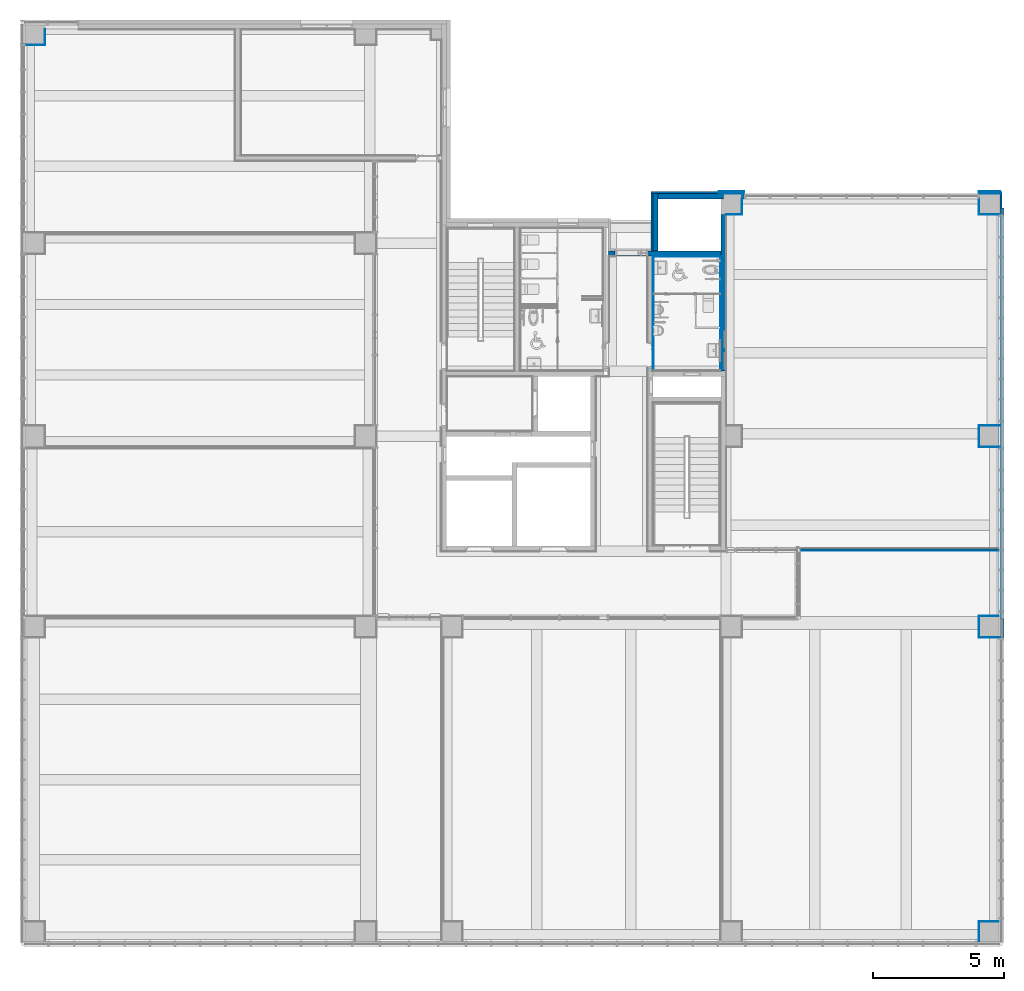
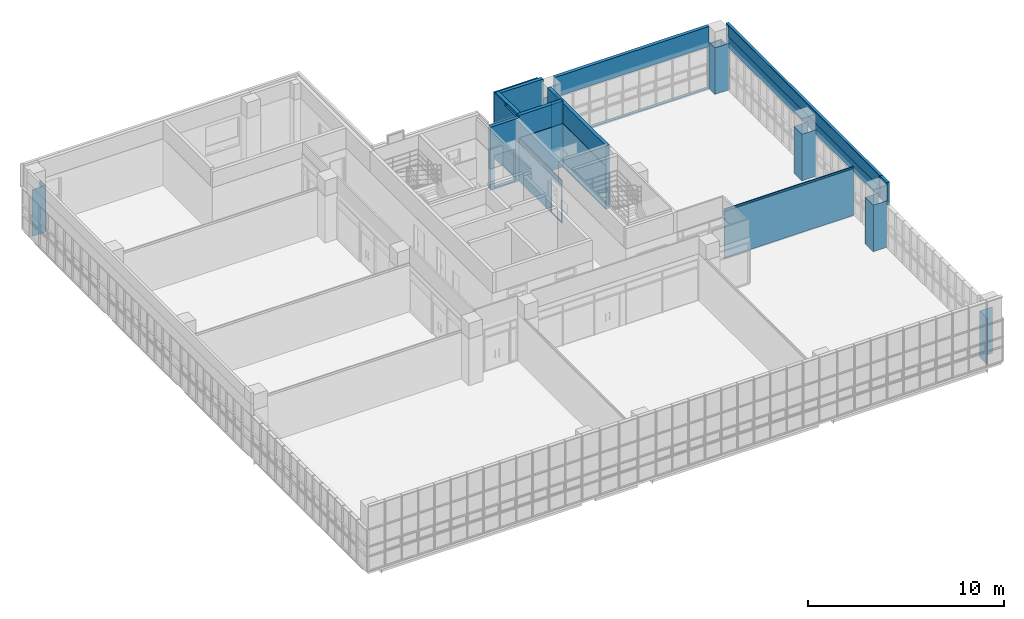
# One storey, part 58 of 76: 32 walls, 4 openings.
"""IFC2X3 building model written with IfcOpenShell, lengths in millimetres."""

from ifc_helpers import new_model, entity, si_unit, converted_unit, derived_unit, direction, frame, frame_2d, origin, origin_2d_with_axis, place, context, subcontext, project, spatial, polyline, rectangle, extrude, clip, bounded_halfspace, material, layer, layer_set, layer_usage, type_object, element, save


model = new_model("IFC2X3")

# Units and contexts
model_context = context("Model", 3, precision=0.01, world=origin(), true_north=direction((6.123031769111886e-17, 1.0)))
body_context = subcontext(model_context, "Body", "Model", "MODEL_VIEW")
ifc_project = project(units=[si_unit("LENGTHUNIT", "METRE", prefix="MILLI"), si_unit("AREAUNIT", "SQUARE_METRE"), si_unit("VOLUMEUNIT", "CUBIC_METRE"), converted_unit("PLANEANGLEUNIT", "DEGREE", entity("IfcRatioMeasure", 0.017453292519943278), si_unit("PLANEANGLEUNIT", "RADIAN"), dimensions=[0, 0, 0, 0, 0, 0, 0]), si_unit("MASSUNIT", "GRAM", prefix="KILO"), derived_unit("MASSDENSITYUNIT", [(si_unit("MASSUNIT", "GRAM", prefix="KILO"), 1), (si_unit("LENGTHUNIT", "METRE"), -3)]), derived_unit("MOMENTOFINERTIAUNIT", [(si_unit("LENGTHUNIT", "METRE"), 4)]), si_unit("TIMEUNIT", "SECOND"), si_unit("FREQUENCYUNIT", "HERTZ"), si_unit("THERMODYNAMICTEMPERATUREUNIT", "DEGREE_CELSIUS"), derived_unit("THERMALTRANSMITTANCEUNIT", [(si_unit("MASSUNIT", "GRAM", prefix="KILO"), 1), (si_unit("THERMODYNAMICTEMPERATUREUNIT", "KELVIN"), -1), (si_unit("TIMEUNIT", "SECOND"), -3)]), derived_unit("VOLUMETRICFLOWRATEUNIT", [(si_unit("LENGTHUNIT", "METRE"), 3), (si_unit("TIMEUNIT", "SECOND"), -1)]), derived_unit("MASSFLOWRATEUNIT", [(si_unit("MASSUNIT", "GRAM", prefix="KILO"), 1), (si_unit("TIMEUNIT", "SECOND"), -1)]), derived_unit("ROTATIONALFREQUENCYUNIT", [(si_unit("TIMEUNIT", "SECOND"), -1)]), si_unit("ELECTRICCURRENTUNIT", "AMPERE"), si_unit("ELECTRICVOLTAGEUNIT", "VOLT"), si_unit("POWERUNIT", "WATT"), si_unit("FORCEUNIT", "NEWTON", prefix="KILO"), si_unit("ILLUMINANCEUNIT", "LUX"), si_unit("LUMINOUSFLUXUNIT", "LUMEN"), si_unit("LUMINOUSINTENSITYUNIT", "CANDELA"), derived_unit("USERDEFINED", [(si_unit("MASSUNIT", "GRAM", prefix="KILO"), -1), (si_unit("LENGTHUNIT", "METRE"), -2), (si_unit("TIMEUNIT", "SECOND"), 3), (si_unit("LUMINOUSFLUXUNIT", "LUMEN"), 1)]), derived_unit("SOUNDPOWERUNIT", [(si_unit("MASSUNIT", "GRAM", prefix="KILO"), 1), (si_unit("LENGTHUNIT", "METRE"), 2), (si_unit("TIMEUNIT", "SECOND"), -3)]), derived_unit("SOUNDPRESSUREUNIT", [(si_unit("MASSUNIT", "GRAM", prefix="KILO"), 1), (si_unit("LENGTHUNIT", "METRE"), -1), (si_unit("TIMEUNIT", "SECOND"), -2)]), derived_unit("LINEARVELOCITYUNIT", [(si_unit("LENGTHUNIT", "METRE"), 1), (si_unit("TIMEUNIT", "SECOND"), -1)]), si_unit("PRESSUREUNIT", "PASCAL"), derived_unit("USERDEFINED", [(si_unit("LENGTHUNIT", "METRE"), -2), (si_unit("MASSUNIT", "GRAM", prefix="KILO"), 1), (si_unit("TIMEUNIT", "SECOND"), -2)]), derived_unit("LINEARFORCEUNIT", [(si_unit("MASSUNIT", "GRAM", prefix="KILO"), 1), (si_unit("LENGTHUNIT", "METRE"), 1), (si_unit("TIMEUNIT", "SECOND"), -2), (si_unit("LENGTHUNIT", "METRE"), -1)]), derived_unit("PLANARFORCEUNIT", [(si_unit("MASSUNIT", "GRAM", prefix="KILO"), 1), (si_unit("LENGTHUNIT", "METRE"), 1), (si_unit("TIMEUNIT", "SECOND"), -2), (si_unit("LENGTHUNIT", "METRE"), -2)])], contexts=[model_context])

# Site, building, storey
site_placement = place(None, frame((-14167.972527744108, -657.2125860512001, 0.0)))
site = spatial("IfcSite", under=ifc_project, at=site_placement, Name="Default", CompositionType="ELEMENT")
building_placement = place(site_placement, origin())
building = spatial("IfcBuilding", under=site, at=building_placement, Name="Sample Building", CompositionType="ELEMENT")
storey_placement = place(building_placement, frame((0.0, 0.0, 9300.0)))
storey = spatial("IfcBuildingStorey", under=building, at=storey_placement, Name="지상 3층", CompositionType="ELEMENT", Elevation=9300.000000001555)

# Wall, opening
ifc_material_1 = material(Name="KBIMS-콘크리트")
ifc_layer_1 = layer(ifc_material_1, 200.0)
ifc_layer_set_1 = layer_set([ifc_layer_1], Name="기본 벽:WA111-철근콘크리트구조 벽 200mm_CW1")
ifc_layer_usage_1 = layer_usage(ifc_layer_set_1, "AXIS2", "NEGATIVE", 100.0)
wall_type_1 = type_object("IfcWallType", Name="기본 벽:WA111-철근콘크리트구조 벽 200mm_CW1", PredefinedType="STANDARD", material=ifc_layer_set_1)
wall_1_placement = place(storey_placement, frame((36467.963798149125, 26957.21229514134, -2.297844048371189e-09)))
wall_1 = element("IfcWallStandardCase", 1, at=wall_1_placement, inside=storey, type_object=wall_type_1, material=ifc_layer_usage_1, Name="기본 벽:WA111-철근콘크리트구조 벽 200mm_CW1", ObjectType="기본 벽:WA111-철근콘크리트구조 벽 200mm_CW1", context=body_context, shape_type="Clipping", body=[
    clip(clip(extrude(rectangle(XDim=4300.000000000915, YDim=199.99999999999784, at=frame_2d((2150.0000000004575, 0.0), x_axis=(-1.0, 0.0))), origin(), (0.0, 0.0, 1.0), 4100.000000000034), bounded_halfspace(frame((1699.9912638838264, -100.0, 3950.0), z_axis=(0.0, 0.0, -1.0), x_axis=(1.0, 0.0, 0.0)), True, frame((1699.9912638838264, -100.0, 3950.0), z_axis=(0.0, 0.0, -1.0), x_axis=(1.0, 0.0, 0.0)), polyline([(0.0, 0.0), (-60957.33723164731, 0.0), (-426717.30176581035, 0.0), (-518157.3372317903, 0.0), (-518157.3372317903, -60960.0), (-426717.30176581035, -60960.0), (0.0, -60960.0), (0.0, 0.0)]))), bounded_halfspace(frame((1699.9912638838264, 100.0, 3950.0), z_axis=(1.0, 0.0, 0.0), x_axis=(0.0, 0.0, 1.0)), True, frame((1699.9912638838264, 100.0, 3950.0), z_axis=(1.0, 0.0, 0.0), x_axis=(0.0, 0.0, 1.0)), polyline([(0.0, 0.0), (45720.0, 0.0), (45720.0, 60960.0), (0.0, 60960.0), (0.0, 0.0)]))),
])
opening_1_placement = place(wall_1_placement, origin())
element("IfcOpeningElement", 2, at=opening_1_placement, cuts=wall_1, Name="기본 벽:WA111-철근콘크리트구조 벽 200mm_CW1", ObjectType="Opening", context=body_context, shape_type="SweptSolid", body=[
    extrude(rectangle(XDim=2020.000000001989, YDim=1250.0000000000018, at=frame_2d((-5.115907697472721e-13, 0.0), x_axis=(1.0, 0.0))), frame((875.0, -252.39999999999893, 1090.0), z_axis=(0.0, 1.0, 0.0), x_axis=(0.0, 0.0, 1.0)), (0.0, 0.0, 1.0), 504.79999999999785),
])

# Walls
ifc_layer_usage_2 = layer_usage(ifc_layer_set_1, "AXIS2", "NEGATIVE", 100.0)
wall_2_placement = place(storey_placement, frame((40867.963798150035, 28457.212307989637, -2.297844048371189e-09), z_axis=(0.0, 0.0, 1.0), x_axis=(0.0, -1.0, 0.0)))
element("IfcWallStandardCase", 3, at=wall_2_placement, inside=storey, type_object=wall_type_1, material=ifc_layer_usage_2, Name="기본 벽:WA111-철근콘크리트구조 벽 200mm_CW1", ObjectType="기본 벽:WA111-철근콘크리트구조 벽 200mm_CW1", context=body_context, shape_type="Clipping", body=[
    clip(extrude(rectangle(XDim=6000.000009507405, YDim=199.99999999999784, at=frame_2d((3000.0000047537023, 5.5351279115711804e-12), x_axis=(-1.0, 0.0))), origin(), (0.0, 0.0, 1.0), 3950.0000000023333), bounded_halfspace(frame((0.0, -100.0, 3950.0), z_axis=(0.0, 0.0, -1.0), x_axis=(1.0, 0.0, 0.0)), True, frame((0.0, -100.0, 3950.0), z_axis=(0.0, 0.0, -1.0), x_axis=(1.0, 0.0, 0.0)), polyline([(0.0, 0.0), (0.0, -60960.0), (1828800.0, -60960.0), (1828800.0, 7.805306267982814e-09), (0.0, 0.0)]))),
])
ifc_layer_usage_3 = layer_usage(ifc_layer_set_1, "AXIS2", "NEGATIVE", 100.0)
wall_3_placement = place(storey_placement, frame((38267.97249112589, 27057.21229514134, -2.297844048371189e-09), z_axis=(0.0, 0.0, 1.0), x_axis=(0.0, 1.0, 0.0)))
element("IfcWallStandardCase", 4, at=wall_3_placement, inside=storey, type_object=wall_type_1, material=ifc_layer_usage_3, Name="기본 벽:WA111-철근콘크리트구조 벽 200mm_CW1", ObjectType="기본 벽:WA111-철근콘크리트구조 벽 200mm_CW1", context=body_context, shape_type="SweptSolid", body=[
    extrude(rectangle(XDim=2200.000012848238, YDim=199.99999999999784, at=frame_2d((1100.000006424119, 0.0), x_axis=(-1.0, 0.0))), origin(), (0.0, 0.0, 1.0), 4100.000000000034),
])
ifc_layer_usage_4 = layer_usage(ifc_layer_set_1, "AXIS2", "NEGATIVE", 100.0)
wall_4_placement = place(storey_placement, frame((38367.97249112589, 29157.21230798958, -2.297844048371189e-09)))
element("IfcWallStandardCase", 5, at=wall_4_placement, inside=storey, type_object=wall_type_1, material=ifc_layer_usage_4, Name="기본 벽:WA111-철근콘크리트구조 벽 200mm_CW1", ObjectType="기본 벽:WA111-철근콘크리트구조 벽 200mm_CW1", context=body_context, shape_type="SweptSolid", body=[
    extrude(rectangle(XDim=2499.991307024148, YDim=199.99999999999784, at=frame_2d((1249.995653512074, 0.0), x_axis=(-1.0, 0.0))), origin(), (0.0, 0.0, 1.0), 4100.000000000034),
])

# Wall, opening
ifc_layer_2 = layer(ifc_material_1, 200.0)
ifc_layer_set_2 = layer_set([ifc_layer_2], Name="기본 벽:WA111-철근콘크리트구조 벽 200mm_W1")
ifc_layer_usage_5 = layer_usage(ifc_layer_set_2, "AXIS2", "NEGATIVE", 100.0)
wall_type_2 = type_object("IfcWallType", Name="기본 벽:WA111-철근콘크리트구조 벽 200mm_W1", PredefinedType="STANDARD", material=ifc_layer_set_2)
wall_5_placement = place(storey_placement, frame((41567.972491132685, 29157.212295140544, -2.297844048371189e-09)))
wall_5 = element("IfcWallStandardCase", 6, at=wall_5_placement, inside=storey, type_object=wall_type_2, material=ifc_layer_usage_5, Name="기본 벽:WA111-철근콘크리트구조 벽 200mm_W1", ObjectType="기본 벽:WA111-철근콘크리트구조 벽 200mm_W1", context=body_context, shape_type="Clipping", body=[
    clip(extrude(rectangle(XDim=9100.008723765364, YDim=199.99999999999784, at=frame_2d((4550.004361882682, 0.0), x_axis=(-1.0, 0.0))), origin(), (0.0, 0.0, 1.0), 3950.0000000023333), bounded_halfspace(frame((0.0, -100.0, 3950.0), z_axis=(0.0, 0.0, -1.0), x_axis=(0.0, -1.0, 0.0)), True, frame((0.0, -100.0, 3950.0), z_axis=(0.0, 0.0, -1.0), x_axis=(0.0, -1.0, 0.0)), polyline([(0.0, 0.0), (-60960.0, 0.0), (-60960.0, -2773682.659003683), (1.5757882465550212e-08, -2773682.659003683), (0.0, 0.0)]))),
])
opening_2_placement = place(wall_5_placement, origin())
element("IfcOpeningElement", 7, at=opening_2_placement, cuts=wall_5, Name="기본 벽:WA111-철근콘크리트구조 벽 200mm_W1", ObjectType="Opening", context=body_context, shape_type="SweptSolid", body=[
    extrude(rectangle(XDim=2620.000000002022, YDim=8991.008729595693, at=frame_2d((-4.547473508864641e-12, -5.684341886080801e-13), x_axis=(0.0, 1.0))), frame((4595.50435896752, -252.3999999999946, 1390.0), z_axis=(0.0, 1.0, 0.0), x_axis=(-1.0, 0.0, 0.0)), (0.0, 0.0, 1.0), 504.79999999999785),
])

# Walls
ifc_material_2 = material(Name="KBIMS-화강석 잔다듬")
ifc_layer_3 = layer(ifc_material_2, 80.0)
ifc_layer_set_3 = layer_set([ifc_layer_3], Name="기본 벽:WA313-화강석잔다듬 벽 (30, 건식50) 80mm")
ifc_layer_usage_6 = layer_usage(ifc_layer_set_3, "AXIS2", "POSITIVE", -40.0)
wall_type_3 = type_object("IfcWallType", Name="기본 벽:WA313-화강석잔다듬 벽 (30, 건식50) 80mm", PredefinedType="STANDARD", material=ifc_layer_set_3)
wall_6_placement = place(storey_placement, frame((51507.96382893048, 28439.212395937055, 80.0), z_axis=(0.0, 0.0, 1.0), x_axis=(0.0, 1.0, 0.0)))
element("IfcWallStandardCase", 8, at=wall_6_placement, inside=storey, type_object=wall_type_3, material=ifc_layer_usage_6, Name="기본 벽:WA313-화강석잔다듬 벽 (30, 건식50) 80mm", ObjectType="기본 벽:WA313-화강석잔다듬 벽 (30, 건식50) 80mm", context=body_context, shape_type="SweptSolid", body=[
    extrude(rectangle(XDim=897.9999871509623, YDim=79.99999999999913, at=frame_2d((448.99999357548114, 0.0), x_axis=(-1.0, 0.0))), origin(), (0.0, 0.0, 1.0), 2620.0000000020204),
])
wall_7_placement = place(storey_placement, frame((51467.96382893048, 29297.21238308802, 80.0), z_axis=(0.0, 0.0, 1.0), x_axis=(-1.0, 0.0, 0.0)))
element("IfcWall", 9, at=wall_7_placement, inside=storey, type_object=wall_type_3, Name="기본 벽:WA313-화강석잔다듬 벽 (30, 건식50) 80mm", ObjectType="기본 벽:WA313-화강석잔다듬 벽 (30, 건식50) 80mm", context=body_context, shape_type="SweptSolid", body=[
    extrude(rectangle(XDim=79.99999999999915, YDim=808.9826140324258, at=frame_2d((4.330757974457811e-12, 0.0), x_axis=(1.0, 0.0))), frame((404.49130701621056, 0.0, 1.9859783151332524e-09), z_axis=(0.0, 0.0, 1.0), x_axis=(0.0, 1.0, 0.0)), (0.0, 0.0, 1.0), 2620.0000000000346),
    extrude(rectangle(XDim=79.99999999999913, YDim=975.008687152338, at=origin_2d_with_axis()), frame((10287.495687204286, 0.0, 1.9859783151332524e-09), z_axis=(0.0, 0.0, 1.0), x_axis=(0.0, 1.0, 0.0)), (0.0, 0.0, 1.0), 2620.0000000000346),
])
ifc_layer_usage_7 = layer_usage(ifc_layer_set_3, "AXIS2", "POSITIVE", -40.0)
wall_8_placement = place(storey_placement, frame((40692.96379815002, 29297.212295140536, -2.297844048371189e-09), z_axis=(0.0, 0.0, 1.0), x_axis=(-1.0, 0.0, 0.0)))
element("IfcWallStandardCase", 10, at=wall_8_placement, inside=storey, type_object=wall_type_3, material=ifc_layer_usage_7, Name="기본 벽:WA313-화강석잔다듬 벽 (30, 건식50) 80mm", ObjectType="기본 벽:WA313-화강석잔다듬 벽 (30, 건식50) 80mm", context=body_context, shape_type="SweptSolid", body=[
    extrude(rectangle(XDim=2604.991307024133, YDim=79.99999999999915, at=frame_2d((1302.4956535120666, -2.842170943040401e-14), x_axis=(-1.0, 0.0))), origin(), (0.0, 0.0, 1.0), 4100.000000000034),
])
ifc_layer_usage_8 = layer_usage(ifc_layer_set_3, "AXIS2", "POSITIVE", -40.0)
wall_9_placement = place(storey_placement, frame((38127.97249112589, 29257.21229514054, -2.297844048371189e-09), z_axis=(0.0, 0.0, 1.0), x_axis=(0.0, -1.0, 0.0)))
element("IfcWallStandardCase", 11, at=wall_9_placement, inside=storey, type_object=wall_type_3, material=ifc_layer_usage_8, Name="기본 벽:WA313-화강석잔다듬 벽 (30, 건식50) 80mm", ObjectType="기본 벽:WA313-화강석잔다듬 벽 (30, 건식50) 80mm", context=body_context, shape_type="Clipping", body=[
    clip(clip(extrude(rectangle(XDim=2199.999999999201, YDim=79.99999999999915, at=frame_2d((1099.9999999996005, 2.2737367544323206e-13), x_axis=(-1.0, 0.0))), origin(), (0.0, 0.0, 1.0), 4100.000000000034), bounded_halfspace(frame((1100.0001779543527, 40.0, 3950.0), z_axis=(0.0, 0.0, -1.0), x_axis=(0.0, 1.0, 0.0)), True, frame((1100.0001779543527, 40.0, 3950.0), z_axis=(0.0, 0.0, -1.0), x_axis=(0.0, 1.0, 0.0)), polyline([(0.0, 0.0), (-2.6400300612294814e-09, 335279.94575926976), (-24384.0, 335279.94575926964), (-24384.0, 310895.94575926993), (-24384.0, 0.0), (0.0, 0.0)]))), bounded_halfspace(frame((1100.0001779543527, -40.0, 3950.0), z_axis=(-1.0, 0.0, 0.0), x_axis=(0.0, 0.0, 1.0)), True, frame((1100.0001779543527, -40.0, 3950.0), z_axis=(-1.0, 0.0, 0.0), x_axis=(0.0, 0.0, 1.0)), polyline([(0.0, 0.0), (45720.0, 0.0), (45720.0, 24384.0), (0.0, 24384.0), (0.0, 0.0)]))),
])
ifc_material_3 = material(Name="WA240-ALC블록벽")
ifc_layer_4 = layer(ifc_material_3, 35.0)
ifc_material_4 = material(Name="WA795-(STEEL)BRACKET")
ifc_layer_5 = layer(ifc_material_4, 65.0)
ifc_material_5 = material(Name="WA821-압출스티로폼 벽 (본드붙임, 비중0.03) 50mm")
ifc_layer_6 = layer(ifc_material_5, 50.0)
ifc_layer_set_4 = layer_set([ifc_layer_4, ifc_layer_5, ifc_layer_6], Name="기본 벽:A2-22-02A-압출스티로폼, BRACKET(STEEL), ALC블록 (150mm)")
ifc_layer_usage_9 = layer_usage(ifc_layer_set_4, "AXIS2", "POSITIVE", -75.0)
wall_type_4 = type_object("IfcWallType", Name="기본 벽:A2-22-02A-압출스티로폼, BRACKET(STEEL), ALC블록 (150mm)", PredefinedType="STANDARD", material=ifc_layer_set_4)
wall_10_placement = place(storey_placement, frame((51542.96382893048, 12957.212586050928, 3400.0), z_axis=(0.0, 0.0, 1.0), x_axis=(0.0, 1.0, 0.0)))
element("IfcWallStandardCase", 12, at=wall_10_placement, inside=storey, type_object=wall_type_4, material=ifc_layer_usage_9, Name="기본 벽:A2-22-02A-압출스티로폼, BRACKET(STEEL), ALC블록 (150mm)", ObjectType="기본 벽:A2-22-02A-압출스티로폼, BRACKET(STEEL), ALC블록 (150mm)", context=body_context, shape_type="SweptSolid", body=[
    extrude(rectangle(XDim=15749.999797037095, YDim=150.00000000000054, at=frame_2d((7874.9998985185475, 0.0), x_axis=(-1.0, 0.0))), origin(), (0.0, 0.0, 1.0), 700.0000000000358),
])

# Wall, opening
ifc_material_6 = material(Name="KBIMS-DRY WALL")
ifc_layer_7 = layer(ifc_material_6, 12.5)
ifc_material_7 = material(Name="KBIMS-경량철골벽틀")
ifc_layer_8 = layer(ifc_material_7, 50.0)
ifc_layer_set_5 = layer_set([ifc_layer_7, ifc_layer_8], Name="기본 벽:WA731-DRY WALL(C50, GS12.5mm) (1겹한면, GW50mm) 62.5mm")
ifc_layer_usage_10 = layer_usage(ifc_layer_set_5, "AXIS2", "NEGATIVE", 31.250000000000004)
wall_type_5 = type_object("IfcWallType", Name="기본 벽:WA731-DRY WALL(C50, GS12.5mm) (1겹한면, GW50mm) 62.5mm", PredefinedType="STANDARD", material=ifc_layer_set_5)
wall_11_placement = place(storey_placement, frame((43767.96382893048, 15625.9276243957, 0.0)))
wall_11 = element("IfcWallStandardCase", 13, at=wall_11_placement, inside=storey, type_object=wall_type_5, material=ifc_layer_usage_10, Name="기본 벽:WA731-DRY WALL(C50, GS12.5mm) (1겹한면, GW50mm) 62.5mm", ObjectType="기본 벽:WA731-DRY WALL(C50, GS12.5mm) (1겹한면, GW50mm) 62.5mm", context=body_context, shape_type="SweptSolid", body=[
    extrude(rectangle(XDim=7650.000000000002, YDim=62.50000000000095, at=frame_2d((3825.000000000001, -1.2754242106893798e-12), x_axis=(-1.0, 0.0))), origin(), (0.0, 0.0, 1.0), 3100.000000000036),
])
opening_3_placement = place(wall_11_placement, origin())
element("IfcOpeningElement", 14, at=opening_3_placement, cuts=wall_11, Name="기본 벽:WA731-DRY WALL(C50, GS12.5mm) (1겹한면, GW50mm) 62.5mm", ObjectType="Opening", context=body_context, shape_type="SweptSolid", body=[
    extrude(rectangle(XDim=2619.999999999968, YDim=2849.999999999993, at=frame_2d((0.0, -5.684341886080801e-13), x_axis=(0.0, 1.0))), frame((-1375.0000307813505, -183.65000000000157, 1390.0), z_axis=(0.0, 1.0, 0.0), x_axis=(-1.0, 0.0, 0.0)), (0.0, 0.0, 1.0), 367.300000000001),
])

# Walls
ifc_material_8 = material(Name="WA785-금속외장패널")
ifc_layer_9 = layer(ifc_material_8, 25.0)
ifc_material_9 = material(Name="WA793-금속 긴결철물 벽")
ifc_layer_10 = layer(ifc_material_9, 75.0)
ifc_layer_11 = layer(ifc_material_5, 50.0)
ifc_layer_set_6 = layer_set([ifc_layer_9, ifc_layer_10, ifc_layer_11], Name="기본 벽:A2-26-01A-압출스티로폼, 금속 긴결철물, 금속외장패널 (150mm)")
ifc_layer_usage_11 = layer_usage(ifc_layer_set_6, "AXIS2", "POSITIVE", -75.0)
wall_type_6 = type_object("IfcWallType", Name="기본 벽:A2-26-01A-압출스티로폼, 금속 긴결철물, 금속외장패널 (150mm)", PredefinedType="STANDARD", material=ifc_layer_set_6)
wall_12_placement = place(storey_placement, frame((51542.96382893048, 12257.177624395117, 2700.0), z_axis=(0.0, 0.0, 1.0), x_axis=(0.0, 1.0, 0.0)))
element("IfcWallStandardCase", 15, at=wall_12_placement, inside=storey, type_object=wall_type_6, material=ifc_layer_usage_11, Name="기본 벽:A2-26-01A-압출스티로폼, 금속 긴결철물, 금속외장패널 (150mm)", ObjectType="기본 벽:A2-26-01A-압출스티로폼, 금속 긴결철물, 금속외장패널 (150mm)", context=body_context, shape_type="SweptSolid", body=[
    extrude(rectangle(XDim=700.0349616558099, YDim=150.00000000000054, at=frame_2d((350.01748082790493, 0.0), x_axis=(-1.0, 0.0))), origin(), (0.0, 0.0, 1.0), 1400.0000000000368),
])
ifc_layer_usage_12 = layer_usage(ifc_layer_set_6, "AXIS2", "POSITIVE", -75.0)
wall_13_placement = place(storey_placement, frame((51542.96382893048, 12957.212586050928, 2700.0), z_axis=(0.0, 0.0, 1.0), x_axis=(0.0, 1.0, 0.0)))
element("IfcWallStandardCase", 16, at=wall_13_placement, inside=storey, type_object=wall_type_6, material=ifc_layer_usage_12, Name="기본 벽:A2-26-01A-압출스티로폼, 금속 긴결철물, 금속외장패널 (150mm)", ObjectType="기본 벽:A2-26-01A-압출스티로폼, 금속 긴결철물, 금속외장패널 (150mm)", context=body_context, shape_type="SweptSolid", body=[
    extrude(rectangle(XDim=15744.96512629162, YDim=150.00000000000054, at=frame_2d((7872.48256314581, 0.0), x_axis=(-1.0, 0.0))), origin(), (0.0, 0.0, 1.0), 700.0000000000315),
])
ifc_material_10 = material(Name="WA611-수성페인트 (내부) 벽 (3회)")
ifc_layer_12 = layer(ifc_material_10, 1.0)
ifc_material_11 = material(Name="WA551-시멘트모르타르 (내부) 벽 18mm")
ifc_layer_13 = layer(ifc_material_11, 16.0)
ifc_material_12 = material(Name="WA555-콘크리트면정리 벽 (내부)")
ifc_layer_14 = layer(ifc_material_12, 1.0)
ifc_layer_set_7 = layer_set([ifc_layer_12, ifc_layer_13, ifc_layer_14], Name="기본 벽:A1-32-06A-콘크리트면정리, 시멘트모르타르(미장용), 수성페인트(내부) (18mm)")
ifc_layer_usage_13 = layer_usage(ifc_layer_set_7, "AXIS2", "NEGATIVE", 9.000000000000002)
wall_type_7 = type_object("IfcWallType", Name="기본 벽:A1-32-06A-콘크리트면정리, 시멘트모르타르(미장용), 수성페인트(내부) (18mm)", PredefinedType="STANDARD", material=ifc_layer_set_7)
wall_14_placement = place(storey_placement, frame((14876.972454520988, 35557.21229514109, 80.0), z_axis=(0.0, 0.0, 1.0), x_axis=(0.0, -1.0, 0.0)))
element("IfcWallStandardCase", 17, at=wall_14_placement, inside=storey, type_object=wall_type_7, material=ifc_layer_usage_13, Name="기본 벽:A1-32-06A-콘크리트면정리, 시멘트모르타르(미장용), 수성페인트(내부) (18mm)", ObjectType="기본 벽:A1-32-06A-콘크리트면정리, 시멘트모르타르(미장용), 수성페인트(내부) (18mm)", context=body_context, shape_type="SweptSolid", body=[
    extrude(rectangle(XDim=618.0000145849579, YDim=18.000000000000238, at=frame_2d((309.0000072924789, 0.0), x_axis=(-1.0, 0.0))), origin(), (0.0, 0.0, 1.0), 2899.999999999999),
])
ifc_layer_usage_14 = layer_usage(ifc_layer_set_7, "AXIS2", "NEGATIVE", 9.000000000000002)
wall_15_placement = place(storey_placement, frame((14867.972454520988, 34948.21228055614, 80.0), z_axis=(0.0, 0.0, 1.0), x_axis=(-1.0, 0.0, 0.0)))
element("IfcWallStandardCase", 18, at=wall_15_placement, inside=storey, type_object=wall_type_7, material=ifc_layer_usage_14, Name="기본 벽:A1-32-06A-콘크리트면정리, 시멘트모르타르(미장용), 수성페인트(내부) (18mm)", ObjectType="기본 벽:A1-32-06A-콘크리트면정리, 시멘트모르타르(미장용), 수성페인트(내부) (18mm)", context=body_context, shape_type="SweptSolid", body=[
    extrude(rectangle(XDim=800.0173493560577, YDim=18.00000000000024, at=frame_2d((400.00867467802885, -2.1662671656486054e-12), x_axis=(-1.0, 0.0))), origin(), (0.0, 0.0, 1.0), 2899.999999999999),
])
ifc_layer_usage_15 = layer_usage(ifc_layer_set_7, "AXIS2", "POSITIVE", -9.000000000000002)
wall_16_placement = place(storey_placement, frame((40985.963798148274, 28448.21230798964, 80.0)))
element("IfcWallStandardCase", 19, at=wall_16_placement, inside=storey, type_object=wall_type_7, material=ifc_layer_usage_15, Name="기본 벽:A1-32-06A-콘크리트면정리, 시멘트모르타르(미장용), 수성페인트(내부) (18mm)", ObjectType="기본 벽:A1-32-06A-콘크리트면정리, 시멘트모르타르(미장용), 수성페인트(내부) (18mm)", context=body_context, shape_type="SweptSolid", body=[
    extrude(rectangle(XDim=600.0086929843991, YDim=18.00000000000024, at=frame_2d((300.00434649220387, -2.1662671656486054e-12), x_axis=(-1.0, 0.0))), origin(), (0.0, 0.0, 1.0), 2899.999999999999),
])
ifc_layer_usage_16 = layer_usage(ifc_layer_set_7, "AXIS2", "POSITIVE", -9.000000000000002)
wall_17_placement = place(storey_placement, frame((41576.972491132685, 28457.212307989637, 80.0), z_axis=(0.0, 0.0, 1.0), x_axis=(0.0, 1.0, 0.0)))
element("IfcWallStandardCase", 20, at=wall_17_placement, inside=storey, type_object=wall_type_7, material=ifc_layer_usage_16, Name="기본 벽:A1-32-06A-콘크리트면정리, 시멘트모르타르(미장용), 수성페인트(내부) (18mm)", ObjectType="기본 벽:A1-32-06A-콘크리트면정리, 시멘트모르타르(미장용), 수성페인트(내부) (18mm)", context=body_context, shape_type="SweptSolid", body=[
    extrude(rectangle(XDim=599.9999871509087, YDim=17.999999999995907, at=frame_2d((299.99999357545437, 0.0), x_axis=(-1.0, 0.0))), origin(), (0.0, 0.0, 1.0), 2899.999999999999),
])
ifc_layer_usage_17 = layer_usage(ifc_layer_set_7, "AXIS2", "POSITIVE", -9.000000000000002)
wall_18_placement = place(storey_placement, frame((50658.981214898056, 29057.21229514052, 80.0), z_axis=(0.0, 0.0, 1.0), x_axis=(0.0, -1.0, 0.0)))
element("IfcWallStandardCase", 21, at=wall_18_placement, inside=storey, type_object=wall_type_7, material=ifc_layer_usage_17, Name="기본 벽:A1-32-06A-콘크리트면정리, 시멘트모르타르(미장용), 수성페인트(내부) (18mm)", ObjectType="기본 벽:A1-32-06A-콘크리트면정리, 시멘트모르타르(미장용), 수성페인트(내부) (18mm)", context=body_context, shape_type="SweptSolid", body=[
    extrude(rectangle(XDim=617.9998992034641, YDim=17.999999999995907, at=frame_2d((308.99994960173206, 0.0), x_axis=(-1.0, 0.0))), origin(), (0.0, 0.0, 1.0), 2899.999999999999),
])
ifc_layer_usage_18 = layer_usage(ifc_layer_set_7, "AXIS2", "POSITIVE", -9.000000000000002)
wall_19_placement = place(storey_placement, frame((50667.98121489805, 28448.21239593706, 80.0)))
element("IfcWallStandardCase", 22, at=wall_19_placement, inside=storey, type_object=wall_type_7, material=ifc_layer_usage_18, Name="기본 벽:A1-32-06A-콘크리트면정리, 시멘트모르타르(미장용), 수성페인트(내부) (18mm)", ObjectType="기본 벽:A1-32-06A-콘크리트면정리, 시멘트모르타르(미장용), 수성페인트(내부) (18mm)", context=body_context, shape_type="SweptSolid", body=[
    extrude(rectangle(XDim=799.9826140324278, YDim=18.00000000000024, at=frame_2d((399.9913070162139, -2.1662671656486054e-12), x_axis=(-1.0, 0.0))), origin(), (0.0, 0.0, 1.0), 2899.999999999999),
])
ifc_layer_usage_19 = layer_usage(ifc_layer_set_7, "AXIS2", "POSITIVE", -9.000000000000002)
wall_20_placement = place(storey_placement, frame((51467.96382893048, 20366.212307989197, 80.0), z_axis=(0.0, 0.0, 1.0), x_axis=(-1.0, 0.0, 0.0)))
element("IfcWallStandardCase", 23, at=wall_20_placement, inside=storey, type_object=wall_type_7, material=ifc_layer_usage_19, Name="기본 벽:A1-32-06A-콘크리트면정리, 시멘트모르타르(미장용), 수성페인트(내부) (18mm)", ObjectType="기본 벽:A1-32-06A-콘크리트면정리, 시멘트모르타르(미장용), 수성페인트(내부) (18mm)", context=body_context, shape_type="SweptSolid", body=[
    extrude(rectangle(XDim=817.9999633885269, YDim=18.00000000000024, at=frame_2d((408.99998169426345, -2.1662671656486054e-12), x_axis=(-1.0, 0.0))), origin(), (0.0, 0.0, 1.0), 2899.999999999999),
])
ifc_layer_usage_20 = layer_usage(ifc_layer_set_7, "AXIS2", "POSITIVE", -9.000000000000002)
wall_21_placement = place(storey_placement, frame((50658.96386554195, 20357.2123079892, 80.0), z_axis=(0.0, 0.0, 1.0), x_axis=(0.0, -1.0, 0.0)))
element("IfcWallStandardCase", 24, at=wall_21_placement, inside=storey, type_object=wall_type_7, material=ifc_layer_usage_20, Name="기본 벽:A1-32-06A-콘크리트면정리, 시멘트모르타르(미장용), 수성페인트(내부) (18mm)", ObjectType="기본 벽:A1-32-06A-콘크리트면정리, 시멘트모르타르(미장용), 수성페인트(내부) (18mm)", context=body_context, shape_type="SweptSolid", body=[
    extrude(rectangle(XDim=818.000000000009, YDim=17.999999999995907, at=frame_2d((409.0000000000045, 0.0), x_axis=(-1.0, 0.0))), origin(), (0.0, 0.0, 1.0), 2899.999999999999),
])
ifc_layer_usage_21 = layer_usage(ifc_layer_set_7, "AXIS2", "POSITIVE", -9.000000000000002)
wall_22_placement = place(storey_placement, frame((50667.96386554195, 19548.212307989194, 80.0)))
element("IfcWallStandardCase", 25, at=wall_22_placement, inside=storey, type_object=wall_type_7, material=ifc_layer_usage_21, Name="기본 벽:A1-32-06A-콘크리트면정리, 시멘트모르타르(미장용), 수성페인트(내부) (18mm)", ObjectType="기본 벽:A1-32-06A-콘크리트면정리, 시멘트모르타르(미장용), 수성페인트(내부) (18mm)", context=body_context, shape_type="SweptSolid", body=[
    extrude(rectangle(XDim=799.999963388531, YDim=18.00000000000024, at=frame_2d((399.9999816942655, -2.1662671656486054e-12), x_axis=(-1.0, 0.0))), origin(), (0.0, 0.0, 1.0), 2899.999999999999),
])
ifc_layer_usage_22 = layer_usage(ifc_layer_set_7, "AXIS2", "POSITIVE", -9.000000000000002)
wall_23_placement = place(storey_placement, frame((51417.96382893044, 13066.212729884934, 80.0), z_axis=(0.0, 0.0, 1.0), x_axis=(-1.0, 0.0, 0.0)))
element("IfcWallStandardCase", 26, at=wall_23_placement, inside=storey, type_object=wall_type_7, material=ifc_layer_usage_22, Name="기본 벽:A1-32-06A-콘크리트면정리, 시멘트모르타르(미장용), 수성페인트(내부) (18mm)", ObjectType="기본 벽:A1-32-06A-콘크리트면정리, 시멘트모르타르(미장용), 수성페인트(내부) (18mm)", context=body_context, shape_type="SweptSolid", body=[
    extrude(rectangle(XDim=768.2436549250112, YDim=18.00000000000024, at=frame_2d((384.1218274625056, -2.291500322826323e-13), x_axis=(-1.0, 0.0))), origin(), (0.0, 0.0, 1.0), 2899.999999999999),
])
ifc_layer_usage_23 = layer_usage(ifc_layer_set_7, "AXIS2", "POSITIVE", -9.000000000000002)
wall_24_placement = place(storey_placement, frame((50658.72017400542, 13057.212729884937, 80.0), z_axis=(0.0, 0.0, 1.0), x_axis=(0.0, -1.0, 0.0)))
element("IfcWallStandardCase", 27, at=wall_24_placement, inside=storey, type_object=wall_type_7, material=ifc_layer_usage_23, Name="기본 벽:A1-32-06A-콘크리트면정리, 시멘트모르타르(미장용), 수성페인트(내부) (18mm)", ObjectType="기본 벽:A1-32-06A-콘크리트면정리, 시멘트모르타르(미장용), 수성페인트(내부) (18mm)", context=body_context, shape_type="SweptSolid", body=[
    extrude(rectangle(XDim=818.0000000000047, YDim=17.999999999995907, at=frame_2d((409.00000000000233, 0.0), x_axis=(-1.0, 0.0))), origin(), (0.0, 0.0, 1.0), 2899.999999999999),
])
ifc_layer_usage_24 = layer_usage(ifc_layer_set_7, "AXIS2", "POSITIVE", -9.000000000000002)
wall_25_placement = place(storey_placement, frame((50667.72017400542, 12248.212729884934, 80.0)))
element("IfcWallStandardCase", 28, at=wall_25_placement, inside=storey, type_object=wall_type_7, material=ifc_layer_usage_24, Name="기본 벽:A1-32-06A-콘크리트면정리, 시멘트모르타르(미장용), 수성페인트(내부) (18mm)", ObjectType="기본 벽:A1-32-06A-콘크리트면정리, 시멘트모르타르(미장용), 수성페인트(내부) (18mm)", context=body_context, shape_type="SweptSolid", body=[
    extrude(rectangle(XDim=800.243654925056, YDim=18.000000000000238, at=frame_2d((400.121827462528, 0.0), x_axis=(-1.0, 0.0))), origin(), (0.0, 0.0, 1.0), 2899.999999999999),
])
ifc_layer_usage_25 = layer_usage(ifc_layer_set_7, "AXIS2", "NEGATIVE", 9.000000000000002)
wall_26_placement = place(storey_placement, frame((50658.98118746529, 607.2122951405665, 80.0), z_axis=(0.0, 0.0, 1.0), x_axis=(0.0, 1.0, 0.0)))
element("IfcWallStandardCase", 29, at=wall_26_placement, inside=storey, type_object=wall_type_7, material=ifc_layer_usage_25, Name="기본 벽:A1-32-06A-콘크리트면정리, 시멘트모르타르(미장용), 수성페인트(내부) (18mm)", ObjectType="기본 벽:A1-32-06A-콘크리트면정리, 시멘트모르타르(미장용), 수성페인트(내부) (18mm)", context=body_context, shape_type="SweptSolid", body=[
    extrude(rectangle(XDim=767.9995909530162, YDim=17.999999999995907, at=frame_2d((383.9997954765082, 0.0), x_axis=(-1.0, 0.0))), origin(), (0.0, 0.0, 1.0), 2899.999999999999),
])
ifc_layer_usage_26 = layer_usage(ifc_layer_set_7, "AXIS2", "NEGATIVE", 9.000000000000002)
wall_27_placement = place(storey_placement, frame((50667.98118746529, 1366.211886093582, 80.0)))
element("IfcWallStandardCase", 30, at=wall_27_placement, inside=storey, type_object=wall_type_7, material=ifc_layer_usage_26, Name="기본 벽:A1-32-06A-콘크리트면정리, 시멘트모르타르(미장용), 수성페인트(내부) (18mm)", ObjectType="기본 벽:A1-32-06A-콘크리트면정리, 시멘트모르타르(미장용), 수성페인트(내부) (18mm)", context=body_context, shape_type="SweptSolid", body=[
    extrude(rectangle(XDim=749.9826414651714, YDim=17.999999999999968, at=frame_2d((374.9913207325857, 1.3322676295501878e-13), x_axis=(-1.0, 0.0))), origin(), (0.0, 0.0, 1.0), 2899.999999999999),
])
ifc_layer_usage_27 = layer_usage(ifc_layer_set_7, "AXIS2", "NEGATIVE", 9.000000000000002)
wall_28_placement = place(storey_placement, frame((51458.963798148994, 13057.21272988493, 3400.0), z_axis=(0.0, 0.0, 1.0), x_axis=(0.0, 1.0, 0.0)))
element("IfcWallStandardCase", 31, at=wall_28_placement, inside=storey, type_object=wall_type_7, material=ifc_layer_usage_27, Name="기본 벽:A1-32-06A-콘크리트면정리, 시멘트모르타르(미장용), 수성페인트(내부) (18mm)", ObjectType="기본 벽:A1-32-06A-콘크리트면정리, 시멘트모르타르(미장용), 수성페인트(내부) (18mm)", context=body_context, shape_type="SweptSolid", body=[
    extrude(rectangle(XDim=17.999999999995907, YDim=15399.999975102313, at=frame_2d((4.331646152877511e-12, 0.0), x_axis=(1.0, 0.0))), frame((7700.0, 0.0, 0.0), z_axis=(0.0, 0.0, 1.0), x_axis=(0.0, 1.0, 0.0)), (0.0, 0.0, 1.0), 700.000000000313),
])
ifc_layer_15 = layer(ifc_material_10, 1.0)
ifc_material_13 = material(Name="WA551-시멘트모르타르 (내부) 벽 24mm")
ifc_layer_16 = layer(ifc_material_13, 21.0)
ifc_material_14 = material(Name="WA961-바닥방수 연장")
ifc_layer_17 = layer(ifc_material_14, 1.0)
ifc_layer_18 = layer(ifc_material_12, 1.0)
ifc_layer_set_8 = layer_set([ifc_layer_15, ifc_layer_16, ifc_layer_17, ifc_layer_18], Name="기본 벽:A1-32-07A-콘크리트면정리, 바닥방수연장, 시멘트모르타르(미장용), 수성페인트(내부) (24mm)")
ifc_layer_usage_28 = layer_usage(ifc_layer_set_8, "AXIS2", "NEGATIVE", 12.000000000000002)
wall_type_8 = type_object("IfcWallType", Name="기본 벽:A1-32-07A-콘크리트면정리, 바닥방수연장, 시멘트모르타르(미장용), 수성페인트(내부) (24mm)", PredefinedType="STANDARD", material=ifc_layer_set_8)
wall_29_placement = place(storey_placement, frame((51417.96382893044, 15582.677624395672, 80.0), z_axis=(0.0, 0.0, 1.0), x_axis=(-1.0, 0.0, 0.0)))
element("IfcWallStandardCase", 32, at=wall_29_placement, inside=storey, type_object=wall_type_8, material=ifc_layer_usage_28, Name="기본 벽:A1-32-07A-콘크리트면정리, 바닥방수연장, 시멘트모르타르(미장용), 수성페인트(내부) (24mm)", ObjectType="기본 벽:A1-32-07A-콘크리트면정리, 바닥방수연장, 시멘트모르타르(미장용), 수성페인트(내부) (24mm)", context=body_context, shape_type="SweptSolid", body=[
    extrude(rectangle(XDim=7637.252351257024, YDim=24.00000000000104, at=frame_2d((3818.626175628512, -1.361577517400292e-12), x_axis=(-1.0, 0.0))), origin(), (0.0, 0.0, 1.0), 2899.999999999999),
])
ifc_material_15 = material(Name="WA352-도기질타일 벽 200x200")
ifc_layer_19 = layer(ifc_material_15, 8.0)
ifc_material_16 = material(Name="WA551-시멘트모르타르 (내부) 벽 22mm")
ifc_layer_20 = layer(ifc_material_16, 22.0)
ifc_layer_set_9 = layer_set([ifc_layer_19, ifc_layer_20], Name="기본 벽:A1-33-01B-시멘트 모르타르, 도기질타일 (30mm)")
ifc_layer_usage_29 = layer_usage(ifc_layer_set_9, "AXIS2", "POSITIVE", -15.0)
wall_type_9 = type_object("IfcWallType", Name="기본 벽:A1-33-01B-시멘트 모르타르, 도기질타일 (30mm)", PredefinedType="STANDARD", material=ifc_layer_set_9)
wall_30_placement = place(storey_placement, frame((40752.96379815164, 22457.277511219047, 0.0), z_axis=(0.0, 0.0, 1.0), x_axis=(0.0, 1.0, 0.0)))
element("IfcWallStandardCase", 33, at=wall_30_placement, inside=storey, type_object=wall_type_9, material=ifc_layer_usage_29, Name="기본 벽:A1-33-01B-시멘트 모르타르, 도기질타일 (30mm)", ObjectType="기본 벽:A1-33-01B-시멘트 모르타르, 도기질타일 (30mm)", context=body_context, shape_type="SweptSolid", body=[
    extrude(rectangle(XDim=4399.934783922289, YDim=30.000000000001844, at=frame_2d((2199.9673919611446, -3.2933655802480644e-12), x_axis=(-1.0, 0.0))), origin(), (0.0, 0.0, 1.0), 2700.0000000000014),
])
ifc_layer_usage_30 = layer_usage(ifc_layer_set_9, "AXIS2", "NEGATIVE", 15.0)
wall_31_placement = place(storey_placement, frame((38197.96379814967, 26842.212295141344, 0.0)))
element("IfcWallStandardCase", 34, at=wall_31_placement, inside=storey, type_object=wall_type_9, material=ifc_layer_usage_30, Name="기본 벽:A1-33-01B-시멘트 모르타르, 도기질타일 (30mm)", ObjectType="기본 벽:A1-33-01B-시멘트 모르타르, 도기질타일 (30mm)", context=body_context, shape_type="SweptSolid", body=[
    extrude(rectangle(XDim=2540.0000000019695, YDim=30.000000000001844, at=frame_2d((1270.0000000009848, 0.0), x_axis=(-1.0, 0.0))), origin(), (0.0, 0.0, 1.0), 2700.0000000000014),
])

# Wall, opening
ifc_layer_usage_31 = layer_usage(ifc_layer_set_9, "AXIS2", "NEGATIVE", 15.0)
wall_32_placement = place(storey_placement, frame((38182.96379814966, 22472.27751121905, 0.0), z_axis=(0.0, 0.0, 1.0), x_axis=(0.0, 1.0, 0.0)))
wall_32 = element("IfcWallStandardCase", 35, at=wall_32_placement, inside=storey, type_object=wall_type_9, material=ifc_layer_usage_31, Name="기본 벽:A1-33-01B-시멘트 모르타르, 도기질타일 (30mm)", ObjectType="기본 벽:A1-33-01B-시멘트 모르타르, 도기질타일 (30mm)", context=body_context, shape_type="SweptSolid", body=[
    extrude(rectangle(XDim=4384.934783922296, YDim=30.000000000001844, at=frame_2d((2192.467391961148, -1.048938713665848e-12), x_axis=(-1.0, 0.0))), origin(), (0.0, 0.0, 1.0), 2700.0000000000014),
])
opening_4_placement = place(wall_32_placement, origin())
element("IfcOpeningElement", 36, at=opening_4_placement, cuts=wall_32, Name="기본 벽:A1-33-01B-시멘트 모르타르, 도기질타일 (30mm)", ObjectType="Opening", context=body_context, shape_type="SweptSolid", body=[
    extrude(rectangle(XDim=2099.9999999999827, YDim=999.999999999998, at=frame_2d((-5.684341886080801e-13, 0.0), x_axis=(1.0, 0.0))), frame((591.3953069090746, -1309.0, 1130.0), z_axis=(0.0, 1.0, 0.0), x_axis=(0.0, 0.0, 1.0)), (0.0, 0.0, 1.0), 3048.0),
])

save(model, "model.ifc")
